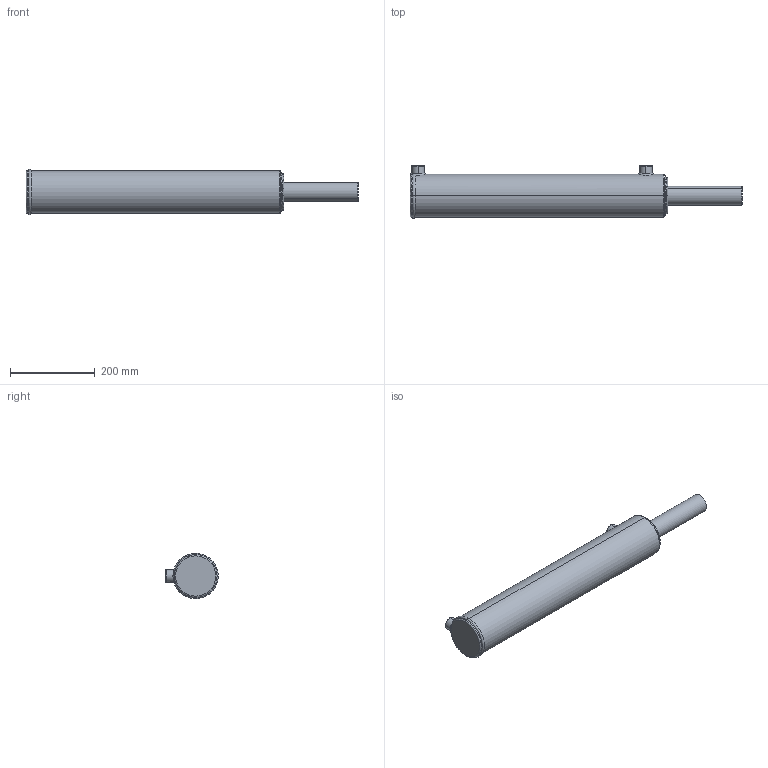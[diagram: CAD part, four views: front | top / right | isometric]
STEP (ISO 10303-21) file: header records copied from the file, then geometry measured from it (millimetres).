
FILE_DESCRIPTION (( 'STEP AP203' ), '1' );
FILE_NAME ('BL350175x508 (20).STEP', '2014-11-24T03:34:16', ( '' ), ( '' ), 'SwSTEP 2.0', 'SolidWorks 2014', '' );
FILE_SCHEMA (( 'CONFIG_CONTROL_DESIGN' ));
Length unit declared in the file: millimetre
Products named in the file (3): BL body 3.5_3.5x20; Spare_3.5x20; BL350175x508 (20)
Assembly tree (2 placements, depth 2):
  BL350175x508 (20)
    BL body 3.5_3.5x20
    Spare_3.5x20
Bounding box: 785 x 124.4 x 107.2 mm (x, y, z)
Volume: 5572160.4 mm3; surface area: 351257.8 mm2
Topology: 2 solids, 2 shells, 88 faces, 205 edges, 126 vertices
Faces by surface type: cylinder 32, plane 20, torus 17, bspline 11, cone 8
Entity records: 6022 total; most frequent: CARTESIAN_POINT 3775, DIRECTION 420, ORIENTED_EDGE 402, EDGE_CURVE 201, AXIS2_PLACEMENT_3D 181, VERTEX_POINT 126, EDGE_LOOP 101, CIRCLE 99
